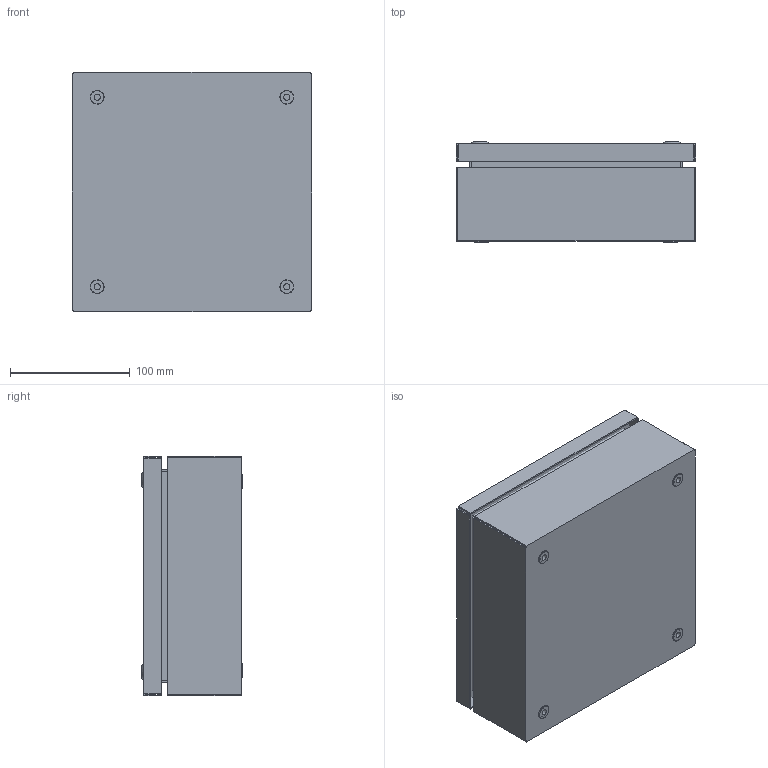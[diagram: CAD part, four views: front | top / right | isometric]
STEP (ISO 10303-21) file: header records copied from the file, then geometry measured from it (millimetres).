
FILE_DESCRIPTION(('Open CASCADE Model'),'2;1');
FILE_NAME('Open CASCADE Shape Model','2025-11-12T17:51:52',('Author'),( 'Open CASCADE'),'Open CASCADE STEP processor 7.8','Open CASCADE 7.8' ,'Unknown');
FILE_SCHEMA(('AUTOMOTIVE_DESIGN { 1 0 10303 214 1 1 1 1 }'));
Length unit declared in the file: millimetre
Products named in the file (16): Compound1; Compound2; Compound3; Solid1; Solid2; Solid3; Solid4; Solid5; Compound4; Compound5; Solid6; Solid7; Solid8; Solid9; Solid10; Solid11
Assembly tree (31 placements, depth 5):
  Compound1
    Compound2
      Compound3
        Solid1
        Solid2  x2
        Solid3  x2
        Solid4  x2
        Solid5
      Compound4
        Compound5
          Solid6
          Solid5
        Solid7
      Solid8  x4
      Solid9  x4
      Solid10  x4
    Solid11  x4
Bounding box: 200 x 83.79 x 200 mm (x, y, z)
Volume: 292513.3 mm3; surface area: 406755.2 mm2
Topology: 27 solids, 27 shells, 912 faces, 2456 edges, 1624 vertices
Faces by surface type: plane 668, cylinder 130, cone 46, bspline 32, torus 28, sphere 8
Full cylindrical faces by diameter (mm): 4 x14, 4.134 x4, 5 x8, 5.2 x4, 5.3 x4, 5.5 x4, 6 x2, 6.5 x4, 7.5 x6, 8 x8, 8.5 x4, 11.5 x4, 13.5 x4, 15.791 x4
Entity records: 14877 total; most frequent: CARTESIAN_POINT 4237, ORIENTED_EDGE 2226, DIRECTION 2016, EDGE_CURVE 1113, LINE 766, VECTOR 766, VERTEX_POINT 736, AXIS2_PLACEMENT_3D 625
